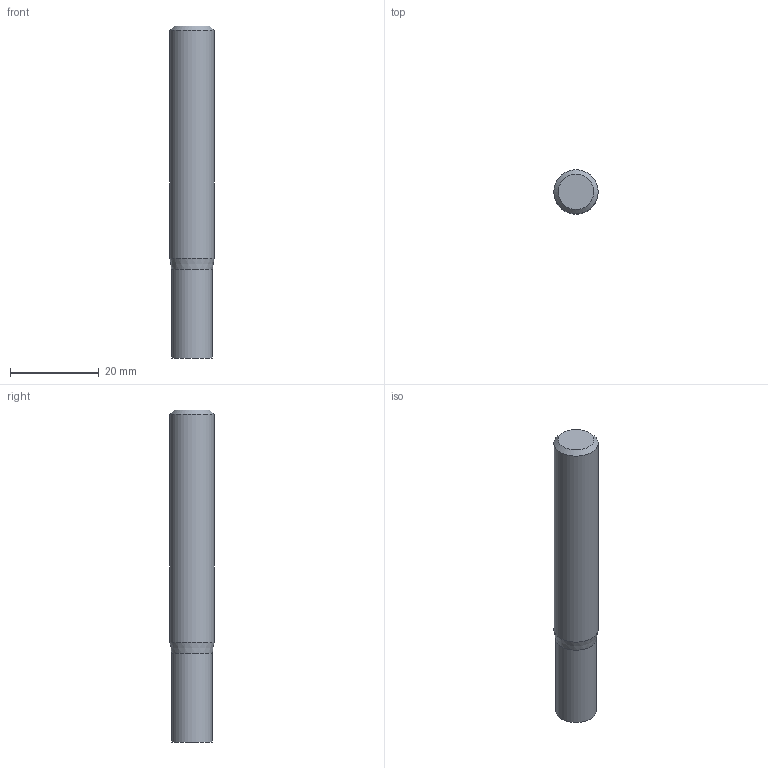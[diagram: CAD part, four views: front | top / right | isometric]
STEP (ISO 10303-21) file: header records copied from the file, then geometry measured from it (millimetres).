
FILE_DESCRIPTION((''),'2;1');
FILE_NAME('C:\Users\nsx150\AppData\Local\Temp\Mastercam 2021\98T1Q6BTT1\TEMP.step','2021-10-21T14:49:51',(''),(''),'STEP Write','Mastercam 2021 ... CNC Software, Inc.','');
FILE_SCHEMA(('AUTOMOTIVE_DESIGN'));
Length unit declared in the file: millimetre
Products named in the file (1): None
Bounding box: 10 x 10 x 75 mm (x, y, z)
Volume: 5619.1 mm3; surface area: 2562 mm2
Topology: 2 solids, 2 shells, 8 faces, 10 edges, 6 vertices
Faces by surface type: plane 4, cylinder 2, cone 2
Full cylindrical faces by diameter (mm): 9.2 x1, 10 x1
Entity records: 190 total; most frequent: DIRECTION 32, CARTESIAN_POINT 22, AXIS2_PLACEMENT_3D 16, ORIENTED_EDGE 12, EDGE_LOOP 12, STYLED_ITEM 11, ADVANCED_FACE 8, VERTEX_POINT 6
